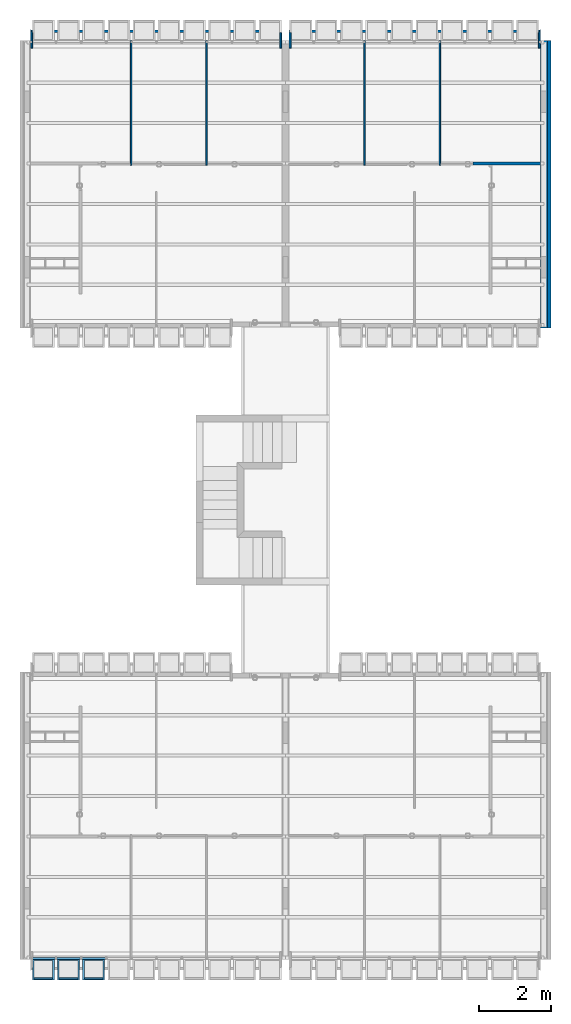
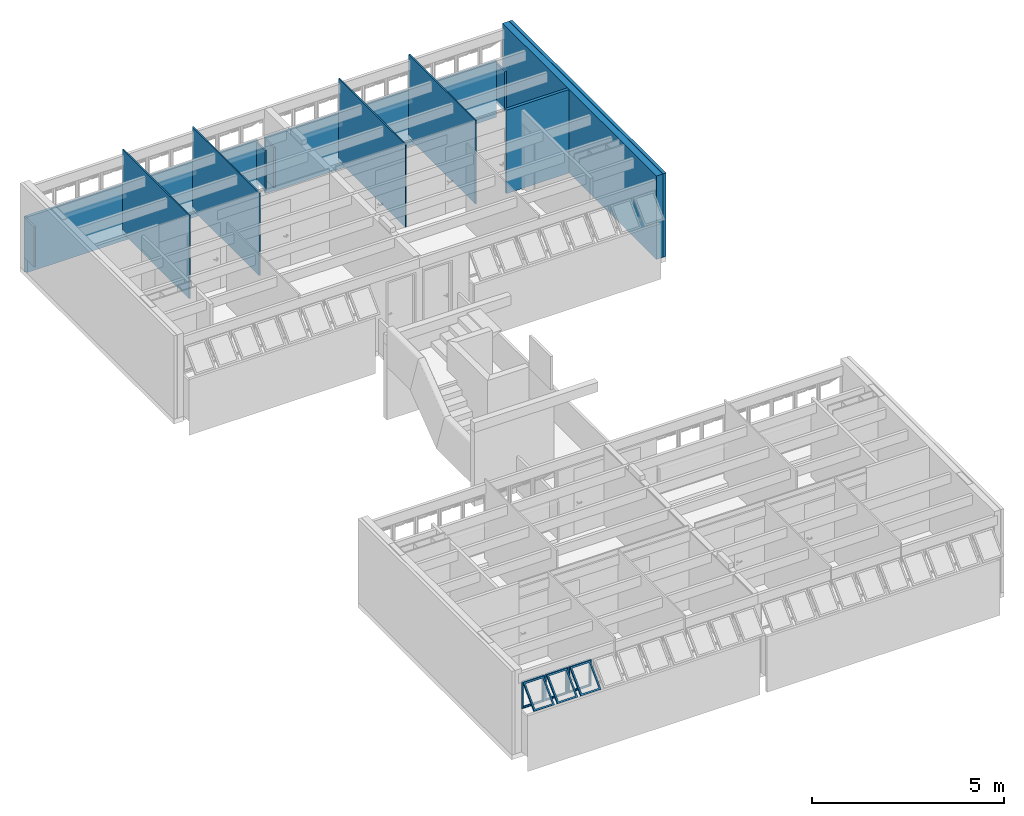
# One storey, part 26 of 38: 13 walls, 3 building element parts, 4 elements without a shape of their own.
"""IFC2X3 building model written with IfcOpenShell, lengths in millimetres."""

from ifc_helpers import new_model, entity, si_unit, converted_unit, derived_unit, money_unit, direction, frame, origin_with_axes, place, context, subcontext, project, spatial, polyline, outline, extrude, faceted_brep, source, transform, mapped, material, layer, layer_set, layer_usage, type_object, element, aggregate, save


model = new_model("IFC2X3")

# Units and contexts
model_context = context("Model", 3, precision=0.01, world=origin_with_axes(), true_north=direction((0.0, 1.0)))
body_context = subcontext(model_context, "Body", "Model", "MODEL_VIEW")
ifc_project = project(units=[si_unit("LENGTHUNIT", "METRE", prefix="MILLI"), si_unit("AREAUNIT", "SQUARE_METRE"), si_unit("VOLUMEUNIT", "CUBIC_METRE"), converted_unit("PLANEANGLEUNIT", "DEGREE", entity("IfcPlaneAngleMeasure", 0.0174532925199), si_unit("PLANEANGLEUNIT", "RADIAN"), dimensions=[0, 0, 0, 0, 0, 0, 0]), money_unit("USD"), converted_unit("TIMEUNIT", "Year", entity("IfcTimeMeasure", 31556926.0), si_unit("TIMEUNIT", "SECOND"), dimensions=[0, 0, 1, 0, 0, 0, 0]), si_unit("MASSUNIT", "GRAM", prefix="KILO"), si_unit("THERMODYNAMICTEMPERATUREUNIT", "DEGREE_CELSIUS"), si_unit("LUMINOUSINTENSITYUNIT", "LUMEN"), si_unit("ENERGYUNIT", "JOULE", prefix="MEGA"), derived_unit("THERMALCONDUCTANCEUNIT", [(si_unit("POWERUNIT", "WATT"), 1), (si_unit("LENGTHUNIT", "METRE"), -1), (si_unit("THERMODYNAMICTEMPERATUREUNIT", "KELVIN"), -1)]), derived_unit("SPECIFICHEATCAPACITYUNIT", [(si_unit("ENERGYUNIT", "JOULE"), 1), (si_unit("MASSUNIT", "GRAM", prefix="KILO"), -1), (si_unit("THERMODYNAMICTEMPERATUREUNIT", "KELVIN"), -1)]), derived_unit("MASSDENSITYUNIT", [(si_unit("MASSUNIT", "GRAM", prefix="KILO"), 1), (si_unit("VOLUMEUNIT", "CUBIC_METRE"), -1)])], contexts=[model_context])

# Site, building, storey
site_placement = place(None, origin_with_axes())
site = spatial("IfcSite", under=ifc_project, at=site_placement, Name="Local", CompositionType="ELEMENT")
building_placement = place(site_placement, origin_with_axes())
building = spatial("IfcBuilding", under=site, at=building_placement, Name="Construção", CompositionType="ELEMENT")
storey_placement = place(building_placement, frame((0.0, 0.0, 2650.0), z_axis=(0.0, 0.0, 1.0), x_axis=(1.0, 0.0, 0.0)))
storey = spatial("IfcBuildingStorey", under=building, at=storey_placement, Name="Segundo Pavimento", CompositionType="ELEMENT", Elevation=2650.0)

# Walls
ifc_material_1 = material(Name="GENÉRICO - VEDAÇÃO EXTERNA")
ifc_layer_1 = layer(ifc_material_1, 190.0, ventilated="UNKNOWN")
ifc_layer_set_1 = layer_set([ifc_layer_1], Name="GENÉRICO - VEDAÇÃO EXTERNA 190")
ifc_layer_usage_1 = layer_usage(ifc_layer_set_1, "AXIS2", "NEGATIVE", 0.0)
wall_type_1 = type_object("IfcWallType", Name="GENÉRICO - VEDAÇÃO EXTERNA 190", PredefinedType="NOTDEFINED")
wall_1_placement = place(storey_placement, frame((14480.0, 17860.0, 0.0), z_axis=(0.0, 0.0, 1.0), x_axis=(0.0, 1.0, 0.0)))
element("IfcWallStandardCase", 1, at=wall_1_placement, inside=storey, type_object=wall_type_1, material=ifc_layer_usage_1, Name="APTO8-PAREDE-013", context=body_context, shape_type="SweptSolid", body=[
    extrude(outline(polyline([(0.0, -190.0), (8000.0, -190.0), (8000.0, 0.0), (0.0, 0.0), (0.0, -190.0)])), origin_with_axes(), (0.0, 0.0, 1.0), 2650.0),
])
ifc_layer_2 = layer(ifc_material_1, 40.0, ventilated="UNKNOWN")
ifc_layer_set_2 = layer_set([ifc_layer_2], Name="GENÉRICO - VEDAÇÃO EXTERNA 40")
ifc_layer_usage_2 = layer_usage(ifc_layer_set_2, "AXIS2", "POSITIVE", 0.0)
wall_type_2 = type_object("IfcWallType", Name="GENÉRICO - VEDAÇÃO EXTERNA 40", PredefinedType="NOTDEFINED")
wall_2_placement = place(storey_placement, frame((5210.0, 22395.0, 0.0), z_axis=(0.0, 0.0, 1.0), x_axis=(0.0, 1.0, 0.0)))
element("IfcWallStandardCase", 2, at=wall_2_placement, inside=storey, type_object=wall_type_2, material=ifc_layer_usage_2, Name="APTO7-PAREDE-005", context=body_context, shape_type="SweptSolid", body=[
    extrude(outline(polyline([(0.0, 0.0), (3465.0, 0.0), (3465.0, 40.0), (0.0, 40.0), (0.0, 0.0)])), origin_with_axes(), (0.0, 0.0, 1.0), 2620.0),
])
ifc_layer_usage_3 = layer_usage(ifc_layer_set_2, "AXIS2", "POSITIVE", 0.0)
wall_3_placement = place(storey_placement, frame((3110.0, 22395.0, 0.0), z_axis=(0.0, 0.0, 1.0), x_axis=(0.0, 1.0, 0.0)))
element("IfcWallStandardCase", 3, at=wall_3_placement, inside=storey, type_object=wall_type_2, material=ifc_layer_usage_3, Name="APTO7-PAREDE-007", context=body_context, shape_type="SweptSolid", body=[
    extrude(outline(polyline([(0.0, 0.0), (3465.0, 0.0), (3465.0, 40.0), (0.0, 40.0), (0.0, 0.0)])), origin_with_axes(), (0.0, 0.0, 1.0), 2650.0),
])
ifc_layer_usage_4 = layer_usage(ifc_layer_set_2, "AXIS2", "NEGATIVE", 0.0)
wall_4_placement = place(storey_placement, frame((9560.0, 22395.0, 0.0), z_axis=(0.0, 0.0, 1.0), x_axis=(0.0, 1.0, 0.0)))
element("IfcWallStandardCase", 4, at=wall_4_placement, inside=storey, type_object=wall_type_2, material=ifc_layer_usage_4, Name="APTO8-PAREDE-005", context=body_context, shape_type="SweptSolid", body=[
    extrude(outline(polyline([(0.0, -40.0), (3465.0, -40.0), (3465.0, 0.0), (0.0, 0.0), (0.0, -40.0)])), origin_with_axes(), (0.0, 0.0, 1.0), 2620.0),
])
ifc_layer_usage_5 = layer_usage(ifc_layer_set_2, "AXIS2", "NEGATIVE", 0.0)
wall_5_placement = place(storey_placement, frame((11660.0, 22395.0, 0.0), z_axis=(0.0, 0.0, 1.0), x_axis=(0.0, 1.0, 0.0)))
element("IfcWallStandardCase", 5, at=wall_5_placement, inside=storey, type_object=wall_type_2, material=ifc_layer_usage_5, Name="APTO8-PAREDE-007", context=body_context, shape_type="SweptSolid", body=[
    extrude(outline(polyline([(0.0, -40.0), (3465.0, -40.0), (3465.0, 0.0), (0.0, 0.0), (0.0, -40.0)])), origin_with_axes(), (0.0, 0.0, 1.0), 2650.0),
])
ifc_layer_3 = layer(ifc_material_1, 90.0, ventilated="UNKNOWN")
ifc_layer_set_3 = layer_set([ifc_layer_3], Name="GENÉRICO - VEDAÇÃO EXTERNA 90")
ifc_layer_usage_6 = layer_usage(ifc_layer_set_3, "AXIS2", "NEGATIVE", 0.0)
wall_type_3 = type_object("IfcWallType", Name="GENÉRICO - VEDAÇÃO EXTERNA 90", PredefinedType="NOTDEFINED")
wall_6_placement = place(storey_placement, frame((14480.0, 22394.7804333, 0.0), z_axis=(0.0, 0.0, 1.0), x_axis=(-1.0, 0.0, 0.0)))
element("IfcWallStandardCase", 6, at=wall_6_placement, inside=storey, type_object=wall_type_3, material=ifc_layer_usage_6, Name="APTO8-PAREDE-019", context=body_context, shape_type="SweptSolid", body=[
    extrude(outline(polyline([(0.0, -90.0), (1879.99807021, -90.0), (1880.0, 0.0), (0.0, 0.0), (0.0, -90.0)])), origin_with_axes(), (0.0, 0.0, 1.0), 2650.0),
])
ifc_layer_usage_7 = layer_usage(ifc_layer_set_3, "AXIS2", "NEGATIVE", 0.0)
wall_7_placement = place(storey_placement, frame((14680.0, 17860.0, 0.0), z_axis=(0.0, 0.0, 1.0), x_axis=(0.0, 1.0, 0.0)))
element("IfcWallStandardCase", 7, at=wall_7_placement, inside=storey, type_object=wall_type_3, material=ifc_layer_usage_7, Name="APTO8-PAREDE-014", context=body_context, shape_type="SweptSolid", body=[
    extrude(outline(polyline([(0.0, -90.0), (8000.0, -90.0), (8000.0, 0.0), (0.0, 0.0), (0.0, -90.0)])), origin_with_axes(), (0.0, 0.0, 1.0), 2650.0),
])
ifc_material_2 = material(Name="Concreto Armado Moldado in Loco - Estrutural")
ifc_layer_4 = layer(ifc_material_2, 50.0, ventilated="UNKNOWN")
ifc_layer_set_4 = layer_set([ifc_layer_4], Name="Concreto Armado Moldado in Loco - Estrutural 50")
ifc_layer_usage_8 = layer_usage(ifc_layer_set_4, "AXIS2", "POSITIVE", -50.0)
wall_type_4 = type_object("IfcWallType", Name="Concreto Armado Moldado in Loco - Estrutural 50", PredefinedType="NOTDEFINED")
wall_8_placement = place(storey_placement, frame((300.0, 25650.0, 0.0), z_axis=(0.0, 0.0, 1.0), x_axis=(0.0, 1.0, 0.0)))
element("IfcWallStandardCase", 8, at=wall_8_placement, inside=storey, type_object=wall_type_4, material=ifc_layer_usage_8, Name="APTO7-PAREDE-002", context=body_context, shape_type="SweptSolid", body=[
    extrude(outline(polyline([(0.0, -50.0), (430.0, -50.0), (510.0, 0.0), (0.0, 0.0), (0.0, -50.0)])), origin_with_axes(), (0.0, 0.0, 1.0), 1270.0),
])
ifc_layer_usage_9 = layer_usage(ifc_layer_set_4, "AXIS2", "POSITIVE", -50.0)
wall_9_placement = place(storey_placement, frame((7230.0, 25650.0, 0.0), z_axis=(0.0, 0.0, 1.0), x_axis=(0.0, 1.0, 0.0)))
element("IfcWallStandardCase", 9, at=wall_9_placement, inside=storey, type_object=wall_type_4, material=ifc_layer_usage_9, Name="APTO7-PAREDE-001", context=body_context, shape_type="SweptSolid", body=[
    extrude(outline(polyline([(0.0, -50.0), (435.0, -50.0), (435.0, 0.0), (0.0, 0.0), (0.0, -50.0)])), origin_with_axes(), (0.0, 0.0, 1.0), 1270.0),
])
ifc_layer_usage_10 = layer_usage(ifc_layer_set_4, "AXIS2", "NEGATIVE", 50.0)
wall_10_placement = place(storey_placement, frame((14470.0, 25650.0, 0.0), z_axis=(0.0, 0.0, 1.0), x_axis=(0.0, 1.0, 0.0)))
element("IfcWallStandardCase", 10, at=wall_10_placement, inside=storey, type_object=wall_type_4, material=ifc_layer_usage_10, Name="APTO8-PAREDE-002", context=body_context, shape_type="SweptSolid", body=[
    extrude(outline(polyline([(0.0, 0.0), (510.0, 0.0), (430.0, 50.0), (0.0, 50.0), (0.0, 0.0)])), origin_with_axes(), (0.0, 0.0, 1.0), 1270.0),
])
ifc_layer_usage_11 = layer_usage(ifc_layer_set_4, "AXIS2", "NEGATIVE", 50.0)
wall_11_placement = place(storey_placement, frame((7540.0, 25650.0, 0.0), z_axis=(0.0, 0.0, 1.0), x_axis=(0.0, 1.0, 0.0)))
element("IfcWallStandardCase", 11, at=wall_11_placement, inside=storey, type_object=wall_type_4, material=ifc_layer_usage_11, Name="APTO8-PAREDE-001", context=body_context, shape_type="SweptSolid", body=[
    extrude(outline(polyline([(0.0, 0.0), (435.0, 0.0), (435.0, 50.0), (0.0, 50.0), (0.0, 0.0)])), origin_with_axes(), (0.0, 0.0, 1.0), 1270.0),
])
ifc_layer_5 = layer(ifc_material_2, 80.0, ventilated="UNKNOWN")
ifc_layer_set_5 = layer_set([ifc_layer_5], Name="Concreto Armado Moldado in Loco - Estrutural 80")
ifc_layer_usage_12 = layer_usage(ifc_layer_set_5, "AXIS2", "NEGATIVE", 80.0)
wall_type_5 = type_object("IfcWallType", Name="Concreto Armado Moldado in Loco - Estrutural 80", PredefinedType="NOTDEFINED")
wall_12_placement = place(storey_placement, frame((300.0, 26080.0, -450.0), z_axis=(0.0, 0.0, 1.0), x_axis=(1.0, 0.0, 0.0)))
element("IfcWallStandardCase", 12, at=wall_12_placement, inside=storey, type_object=wall_type_5, material=ifc_layer_usage_12, Name="APTO7-PAREDE-015", context=body_context, shape_type="SweptSolid", body=[
    extrude(outline(polyline([(50.0, 0.0), (6980.0, 0.0), (6980.0, 80.0), (0.0, 80.0), (50.0, 0.0)])), origin_with_axes(), (0.0, 0.0, 1.0), 1765.0),
])
ifc_layer_usage_13 = layer_usage(ifc_layer_set_5, "AXIS2", "POSITIVE", -80.0)
wall_13_placement = place(storey_placement, frame((14470.0, 26080.0, -450.0), z_axis=(0.0, 0.0, 1.0), x_axis=(-1.0, 0.0, 0.0)))
element("IfcWallStandardCase", 13, at=wall_13_placement, inside=storey, type_object=wall_type_5, material=ifc_layer_usage_13, Name="APTO8-PAREDE-015", context=body_context, shape_type="SweptSolid", body=[
    extrude(outline(polyline([(0.0, -80.0), (6980.0, -80.0), (6980.0, 0.0), (50.0, 0.0), (0.0, -80.0)])), origin_with_axes(), (0.0, 0.0, 1.0), 1765.0),
])

# Window, plates, building element parts
window_style = type_object("IfcWindowStyle", Name="Tipo de Parede Cortina", ConstructionType="NOTDEFINED", OperationType="NOTDEFINED", ParameterTakesPrecedence=False, Sizeable=False)
window_placement = place(storey_placement, frame((6250.0, 315.020977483, 1355.02054151), z_axis=(0.0, 0.0, 1.0), x_axis=(1.0, 0.0, 0.0)))
window = element("IfcWindow", 14, at=window_placement, inside=storey, type_object=window_style, Name="APTO5-JANELA-001")
plate_type = type_object("IfcPlateType", Name="Painel Principal 690 x 845 x 20", PredefinedType="CURTAIN_PANEL")
plate_1_placement = place(window_placement, frame((-5600.0, 0.0, 422.499945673), z_axis=(0.0, 0.0, 1.0), x_axis=(-1.0, 0.0, 0.0)))
plate_1 = element("IfcPlate", 15, at=plate_1_placement, type_object=plate_type, Name="APTO5-Painel-Prin-013")
ifc_material_3 = material(Name="Alumínio")
shared_shape_1 = source(origin_with_axes(), body_context, "Body", "Brep", [
    faceted_brep([(25.0000036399, 0.0, -40.0), (674.999997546, 0.0, -40.0), (674.999997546, 0.0, -35.0), (25.0000036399, 0.0, -35.0), (70.0000036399, 45.0, -40.0), (629.999997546, 45.0, -40.0), (629.999997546, 45.0, -35.0), (70.0000036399, 45.0, -35.0)], [[[0, 1, 2, 3]], [[0, 4, 5, 1]], [[1, 5, 6, 2]], [[3, 2, 6, 7]], [[4, 0, 3, 7]], [[5, 4, 7, 6]]]),
    faceted_brep([(674.999997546, 0.0, -40.0), (674.999997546, 844.999891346, -40.0), (674.999997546, 844.999891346, -35.0), (674.999997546, 0.0, -35.0), (629.999997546, 45.0, -40.0), (629.999997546, 799.999891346, -40.0), (629.999997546, 799.999891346, -35.0), (629.999997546, 45.0, -35.0)], [[[0, 1, 2, 3]], [[0, 4, 5, 1]], [[1, 5, 6, 2]], [[3, 2, 6, 7]], [[4, 0, 3, 7]], [[5, 4, 7, 6]]]),
    faceted_brep([(25.0000036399, 844.999891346, -40.0), (70.0000036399, 799.999891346, -40.0), (70.0000036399, 799.999891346, -35.0), (25.0000036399, 844.999891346, -35.0), (674.999997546, 844.999891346, -40.0), (629.999997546, 799.999891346, -40.0), (629.999997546, 799.999891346, -35.0), (674.999997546, 844.999891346, -35.0)], [[[0, 1, 2, 3]], [[0, 4, 5, 1]], [[1, 5, 6, 2]], [[3, 2, 6, 7]], [[4, 0, 3, 7]], [[5, 4, 7, 6]]]),
    faceted_brep([(25.0000036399, 0.0, -40.0), (70.0000036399, 45.0, -40.0), (70.0000036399, 45.0, -35.0), (25.0000036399, 0.0, -35.0), (25.0000036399, 844.999891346, -40.0), (70.0000036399, 799.999891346, -40.0), (70.0000036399, 799.999891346, -35.0), (25.0000036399, 844.999891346, -35.0)], [[[0, 1, 2, 3]], [[0, 4, 5, 1]], [[1, 5, 6, 2]], [[3, 2, 6, 7]], [[4, 0, 3, 7]], [[5, 4, 7, 6]]]),
    faceted_brep([(25.0000036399, 0.0, -35.0), (674.999997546, 0.0, -35.0), (674.999997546, 0.0, 15.0), (25.0000036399, 0.0, 15.0), (45.0000036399, 20.0, -35.0), (654.999997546, 20.0, -35.0), (654.999997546, 20.0, 15.0), (45.0000036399, 20.0, 15.0)], [[[0, 1, 2, 3]], [[0, 4, 5, 1]], [[1, 5, 6, 2]], [[3, 2, 6, 7]], [[4, 0, 3, 7]], [[5, 4, 7, 6]]]),
    faceted_brep([(674.999997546, 0.0, -35.0), (674.999997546, 844.999891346, -35.0), (674.999997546, 844.999891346, 15.0), (674.999997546, 0.0, 15.0), (654.999997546, 20.0, -35.0), (654.999997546, 824.999891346, -35.0), (654.999997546, 824.999891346, 15.0), (654.999997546, 20.0, 15.0)], [[[0, 1, 2, 3]], [[0, 4, 5, 1]], [[1, 5, 6, 2]], [[3, 2, 6, 7]], [[4, 0, 3, 7]], [[5, 4, 7, 6]]]),
    faceted_brep([(25.0000036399, 844.999891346, -35.0), (45.0000036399, 824.999891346, -35.0), (45.0000036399, 824.999891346, 15.0), (25.0000036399, 844.999891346, 15.0), (674.999997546, 844.999891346, -35.0), (654.999997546, 824.999891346, -35.0), (654.999997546, 824.999891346, 15.0), (674.999997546, 844.999891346, 15.0)], [[[0, 1, 2, 3]], [[0, 4, 5, 1]], [[1, 5, 6, 2]], [[3, 2, 6, 7]], [[4, 0, 3, 7]], [[5, 4, 7, 6]]]),
    faceted_brep([(25.0000036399, 0.0, -35.0), (45.0000036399, 20.0, -35.0), (45.0000036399, 20.0, 15.0), (25.0000036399, 0.0, 15.0), (25.0000036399, 844.999891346, -35.0), (45.0000036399, 824.999891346, -35.0), (45.0000036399, 824.999891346, 15.0), (25.0000036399, 844.999891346, 15.0)], [[[0, 1, 2, 3]], [[0, 4, 5, 1]], [[1, 5, 6, 2]], [[3, 2, 6, 7]], [[4, 0, 3, 7]], [[5, 4, 7, 6]]]),
    faceted_brep([(694.999995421, 0.0, -10.0), (694.999995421, 844.999891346, -10.0), (694.999995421, 844.999891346, 10.0), (694.999995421, 0.0, 10.0), (674.999997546, 0.0, -10.0), (674.999997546, 844.999891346, -10.0), (674.999997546, 844.999891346, 10.0), (674.999997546, 0.0, 10.0)], [[[0, 1, 2, 3]], [[0, 4, 5, 1]], [[1, 5, 6, 2]], [[3, 2, 6, 7]], [[4, 0, 3, 7]], [[5, 4, 7, 6]]]),
    faceted_brep([(5.00000576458, 844.999891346, -10.0), (5.00000576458, 0.0, -10.0), (5.00000576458, 0.0, 10.0), (5.00000576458, 844.999891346, 10.0), (25.0000036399, 844.999891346, -10.0), (25.0000036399, 0.0, -10.0), (25.0000036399, 0.0, 10.0), (25.0000036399, 844.999891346, 10.0)], [[[0, 1, 2, 3]], [[0, 4, 5, 1]], [[1, 5, 6, 2]], [[3, 2, 6, 7]], [[4, 0, 3, 7]], [[5, 4, 7, 6]]]),
    faceted_brep([(90.0000036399, 252.243475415, 517.045737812), (90.0000036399, 757.824747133, 11.4644660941), (90.0000036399, 796.715620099, 50.3553390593), (90.0000036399, 291.13434838, 555.936610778), (45.0000036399, 220.423670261, 548.865542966), (45.0000036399, 789.644552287, -20.3553390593), (45.0000036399, 828.535425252, 18.5355339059), (45.0000036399, 259.314543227, 587.756415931)], [[[0, 1, 2, 3]], [[0, 4, 5, 1]], [[1, 5, 6, 2]], [[3, 2, 6, 7]], [[4, 0, 3, 7]], [[5, 4, 7, 6]]]),
    faceted_brep([(654.999997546, 220.423670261, 548.865542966), (654.999997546, 789.644552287, -20.3553390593), (654.999997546, 828.535425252, 18.5355339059), (654.999997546, 259.314543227, 587.756415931), (609.999997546, 252.243475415, 517.045737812), (609.999997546, 757.824747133, 11.4644660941), (609.999997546, 796.715620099, 50.3553390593), (609.999997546, 291.13434838, 555.936610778)], [[[0, 1, 2, 3]], [[0, 4, 5, 1]], [[1, 5, 6, 2]], [[3, 2, 6, 7]], [[4, 0, 3, 7]], [[5, 4, 7, 6]]]),
    faceted_brep([(654.999997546, 220.423670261, 548.865542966), (609.999997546, 252.243475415, 517.045737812), (609.999997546, 291.13434838, 555.936610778), (654.999997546, 259.314543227, 587.756415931), (45.0000036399, 220.423670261, 548.865542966), (90.0000036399, 252.243475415, 517.045737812), (90.0000036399, 291.13434838, 555.936610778), (45.0000036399, 259.314543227, 587.756415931)], [[[0, 1, 2, 3]], [[0, 4, 5, 1]], [[1, 5, 6, 2]], [[3, 2, 6, 7]], [[4, 0, 3, 7]], [[5, 4, 7, 6]]]),
    faceted_brep([(45.0000036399, 789.644552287, -20.3553390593), (90.0000036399, 757.824747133, 11.4644660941), (90.0000036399, 796.715620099, 50.3553390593), (45.0000036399, 828.535425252, 18.5355339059), (654.999997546, 789.644552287, -20.3553390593), (609.999997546, 757.824747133, 11.4644660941), (609.999997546, 796.715620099, 50.3553390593), (654.999997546, 828.535425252, 18.5355339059)], [[[0, 1, 2, 3]], [[0, 4, 5, 1]], [[1, 5, 6, 2]], [[3, 2, 6, 7]], [[4, 0, 3, 7]], [[5, 4, 7, 6]]]),
])
building_element_part_1_placement = place(plate_1_placement, origin_with_axes())
building_element_part_1 = element("IfcBuildingElementPart", 16, at=building_element_part_1_placement, material=ifc_material_3, Name="Alumínio", context=body_context, shape_type="MappedRepresentation", body=[
    mapped(shared_shape_1, transform((350.0, 0.0, -422.499945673), x_axis=(-1.0, 0.0, 0.0), y_axis=(0.0, 0.0, 1.0), z_axis=(0.0, 1.0, 0.0))),
])
aggregate(plate_1, [building_element_part_1])
plate_2_placement = place(window_placement, frame((-4900.0, 0.0, 422.499945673), z_axis=(0.0, 0.0, 1.0), x_axis=(-1.0, 0.0, 0.0)))
plate_2 = element("IfcPlate", 17, at=plate_2_placement, type_object=plate_type, Name="APTO5-Painel-Prin-013")
building_element_part_2_placement = place(plate_2_placement, origin_with_axes())
building_element_part_2 = element("IfcBuildingElementPart", 18, at=building_element_part_2_placement, material=ifc_material_3, Name="Alumínio", context=body_context, shape_type="MappedRepresentation", body=[
    mapped(shared_shape_1, transform((350.0, 0.0, -422.499945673), x_axis=(-1.0, 0.0, 0.0), y_axis=(0.0, 0.0, 1.0), z_axis=(0.0, 1.0, 0.0))),
])
aggregate(plate_2, [building_element_part_2])
plate_3_placement = place(window_placement, frame((-4200.0, 0.0, 422.499945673), z_axis=(0.0, 0.0, 1.0), x_axis=(-1.0, 0.0, 0.0)))
plate_3 = element("IfcPlate", 19, at=plate_3_placement, type_object=plate_type, Name="APTO5-Painel-Prin-013")
aggregate(window, [plate_1, plate_2, plate_3])
shared_shape_2 = source(origin_with_axes(), body_context, "Body", "Brep", [
    faceted_brep([(25.0000036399, 0.0, -40.0), (674.999997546, 0.0, -40.0), (674.999997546, 0.0, -35.0), (25.0000036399, 0.0, -35.0), (70.0000036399, 45.0, -40.0), (629.999997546, 45.0, -40.0), (629.999997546, 45.0, -35.0), (70.0000036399, 45.0, -35.0)], [[[0, 1, 2, 3]], [[0, 4, 5, 1]], [[1, 5, 6, 2]], [[3, 2, 6, 7]], [[4, 0, 3, 7]], [[5, 4, 7, 6]]]),
    faceted_brep([(674.999997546, 0.0, -40.0), (674.999997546, 844.999891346, -40.0), (674.999997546, 844.999891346, -35.0), (674.999997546, 0.0, -35.0), (629.999997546, 45.0, -40.0), (629.999997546, 799.999891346, -40.0), (629.999997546, 799.999891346, -35.0), (629.999997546, 45.0, -35.0)], [[[0, 1, 2, 3]], [[0, 4, 5, 1]], [[1, 5, 6, 2]], [[3, 2, 6, 7]], [[4, 0, 3, 7]], [[5, 4, 7, 6]]]),
    faceted_brep([(25.0000036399, 844.999891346, -40.0), (70.0000036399, 799.999891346, -40.0), (70.0000036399, 799.999891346, -35.0), (25.0000036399, 844.999891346, -35.0), (674.999997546, 844.999891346, -40.0), (629.999997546, 799.999891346, -40.0), (629.999997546, 799.999891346, -35.0), (674.999997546, 844.999891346, -35.0)], [[[0, 1, 2, 3]], [[0, 4, 5, 1]], [[1, 5, 6, 2]], [[3, 2, 6, 7]], [[4, 0, 3, 7]], [[5, 4, 7, 6]]]),
    faceted_brep([(25.0000036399, 0.0, -40.0), (70.0000036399, 45.0, -40.0), (70.0000036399, 45.0, -35.0), (25.0000036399, 0.0, -35.0), (25.0000036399, 844.999891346, -40.0), (70.0000036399, 799.999891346, -40.0), (70.0000036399, 799.999891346, -35.0), (25.0000036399, 844.999891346, -35.0)], [[[0, 1, 2, 3]], [[0, 4, 5, 1]], [[1, 5, 6, 2]], [[3, 2, 6, 7]], [[4, 0, 3, 7]], [[5, 4, 7, 6]]]),
    faceted_brep([(25.0000036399, 0.0, -35.0), (674.999997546, 0.0, -35.0), (674.999997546, 0.0, 15.0), (25.0000036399, 0.0, 15.0), (45.0000036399, 20.0, -35.0), (654.999997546, 20.0, -35.0), (654.999997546, 20.0, 15.0), (45.0000036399, 20.0, 15.0)], [[[0, 1, 2, 3]], [[0, 4, 5, 1]], [[1, 5, 6, 2]], [[3, 2, 6, 7]], [[4, 0, 3, 7]], [[5, 4, 7, 6]]]),
    faceted_brep([(674.999997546, 0.0, -35.0), (674.999997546, 844.999891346, -35.0), (674.999997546, 844.999891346, 15.0), (674.999997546, 0.0, 15.0), (654.999997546, 20.0, -35.0), (654.999997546, 824.999891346, -35.0), (654.999997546, 824.999891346, 15.0), (654.999997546, 20.0, 15.0)], [[[0, 1, 2, 3]], [[0, 4, 5, 1]], [[1, 5, 6, 2]], [[3, 2, 6, 7]], [[4, 0, 3, 7]], [[5, 4, 7, 6]]]),
    faceted_brep([(25.0000036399, 844.999891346, -35.0), (45.0000036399, 824.999891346, -35.0), (45.0000036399, 824.999891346, 15.0), (25.0000036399, 844.999891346, 15.0), (674.999997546, 844.999891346, -35.0), (654.999997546, 824.999891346, -35.0), (654.999997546, 824.999891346, 15.0), (674.999997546, 844.999891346, 15.0)], [[[0, 1, 2, 3]], [[0, 4, 5, 1]], [[1, 5, 6, 2]], [[3, 2, 6, 7]], [[4, 0, 3, 7]], [[5, 4, 7, 6]]]),
    faceted_brep([(25.0000036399, 0.0, -35.0), (45.0000036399, 20.0, -35.0), (45.0000036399, 20.0, 15.0), (25.0000036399, 0.0, 15.0), (25.0000036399, 844.999891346, -35.0), (45.0000036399, 824.999891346, -35.0), (45.0000036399, 824.999891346, 15.0), (25.0000036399, 844.999891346, 15.0)], [[[0, 1, 2, 3]], [[0, 4, 5, 1]], [[1, 5, 6, 2]], [[3, 2, 6, 7]], [[4, 0, 3, 7]], [[5, 4, 7, 6]]]),
    faceted_brep([(694.999995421, 0.0, -10.0), (694.999995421, 844.999891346, -10.0), (694.999995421, 844.999891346, 10.0), (694.999995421, 0.0, 10.0), (674.999997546, 0.0, -10.0), (674.999997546, 844.999891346, -10.0), (674.999997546, 844.999891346, 10.0), (674.999997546, 0.0, 10.0)], [[[0, 1, 2, 3]], [[0, 4, 5, 1]], [[1, 5, 6, 2]], [[3, 2, 6, 7]], [[4, 0, 3, 7]], [[5, 4, 7, 6]]]),
    faceted_brep([(5.00000576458, 844.999891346, -10.0), (5.00000576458, 0.0, -10.0), (5.00000576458, 0.0, 10.0), (5.00000576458, 844.999891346, 10.0), (25.0000036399, 844.999891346, -10.0), (25.0000036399, 0.0, -10.0), (25.0000036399, 0.0, 10.0), (25.0000036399, 844.999891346, 10.0)], [[[0, 1, 2, 3]], [[0, 4, 5, 1]], [[1, 5, 6, 2]], [[3, 2, 6, 7]], [[4, 0, 3, 7]], [[5, 4, 7, 6]]]),
    faceted_brep([(90.0000036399, 252.243475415, 517.045737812), (90.0000036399, 757.824747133, 11.4644660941), (90.0000036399, 796.715620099, 50.3553390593), (90.0000036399, 291.13434838, 555.936610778), (45.0000036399, 220.423670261, 548.865542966), (45.0000036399, 789.644552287, -20.3553390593), (45.0000036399, 828.535425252, 18.5355339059), (45.0000036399, 259.314543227, 587.756415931)], [[[0, 1, 2, 3]], [[0, 4, 5, 1]], [[1, 5, 6, 2]], [[3, 2, 6, 7]], [[4, 0, 3, 7]], [[5, 4, 7, 6]]]),
    faceted_brep([(654.999997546, 220.423670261, 548.865542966), (654.999997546, 789.644552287, -20.3553390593), (654.999997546, 828.535425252, 18.5355339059), (654.999997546, 259.314543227, 587.756415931), (609.999997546, 252.243475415, 517.045737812), (609.999997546, 757.824747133, 11.4644660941), (609.999997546, 796.715620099, 50.3553390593), (609.999997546, 291.13434838, 555.936610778)], [[[0, 1, 2, 3]], [[0, 4, 5, 1]], [[1, 5, 6, 2]], [[3, 2, 6, 7]], [[4, 0, 3, 7]], [[5, 4, 7, 6]]]),
    faceted_brep([(654.999997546, 220.423670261, 548.865542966), (609.999997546, 252.243475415, 517.045737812), (609.999997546, 291.13434838, 555.936610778), (654.999997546, 259.314543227, 587.756415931), (45.0000036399, 220.423670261, 548.865542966), (90.0000036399, 252.243475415, 517.045737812), (90.0000036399, 291.13434838, 555.936610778), (45.0000036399, 259.314543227, 587.756415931)], [[[0, 1, 2, 3]], [[0, 4, 5, 1]], [[1, 5, 6, 2]], [[3, 2, 6, 7]], [[4, 0, 3, 7]], [[5, 4, 7, 6]]]),
    faceted_brep([(45.0000036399, 789.644552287, -20.3553390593), (90.0000036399, 757.824747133, 11.4644660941), (90.0000036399, 796.715620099, 50.3553390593), (45.0000036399, 828.535425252, 18.5355339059), (654.999997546, 789.644552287, -20.3553390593), (609.999997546, 757.824747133, 11.4644660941), (609.999997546, 796.715620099, 50.3553390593), (654.999997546, 828.535425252, 18.5355339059)], [[[0, 1, 2, 3]], [[0, 4, 5, 1]], [[1, 5, 6, 2]], [[3, 2, 6, 7]], [[4, 0, 3, 7]], [[5, 4, 7, 6]]]),
])
building_element_part_3_placement = place(plate_3_placement, origin_with_axes())
building_element_part_3 = element("IfcBuildingElementPart", 20, at=building_element_part_3_placement, material=ifc_material_3, Name="Alumínio", context=body_context, shape_type="MappedRepresentation", body=[
    mapped(shared_shape_2, transform((350.0, 0.0, -422.499945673), x_axis=(-1.0, 0.0, 0.0), y_axis=(0.0, 0.0, 1.0), z_axis=(0.0, 1.0, 0.0))),
])
aggregate(plate_3, [building_element_part_3])

save(model, "model.ifc")
